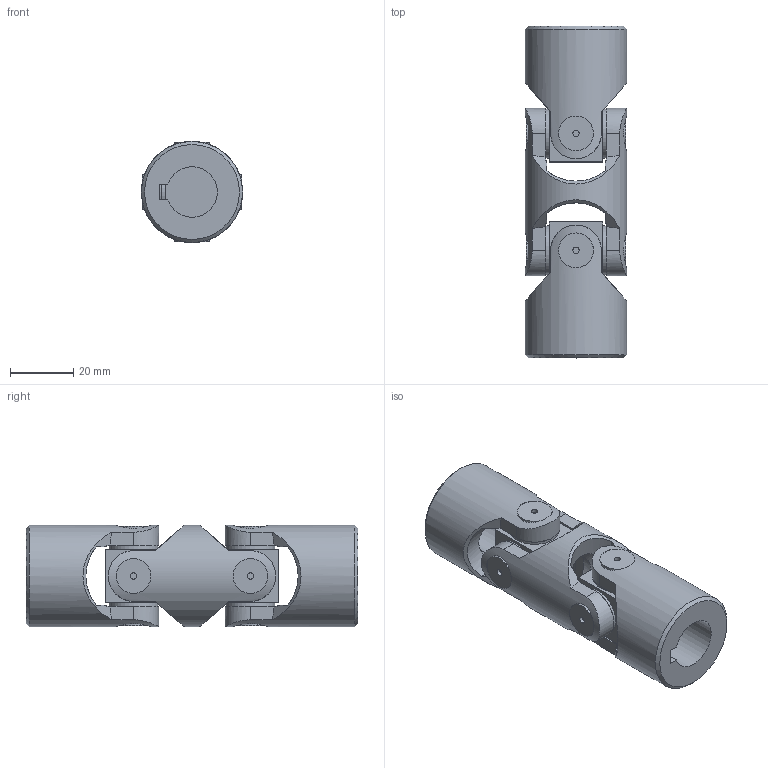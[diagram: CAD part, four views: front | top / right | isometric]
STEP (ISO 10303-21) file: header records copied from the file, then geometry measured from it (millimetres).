
FILE_DESCRIPTION(/* description */ (''),/* implementation_level */ '2;1');
FILE_NAME(/* name */ '\\SRV2016\Societa\Stefano\Disegni 3D\00Catalogo 3D\02Doppi GD-GBD\SG0D161C.stp',/* time_stamp */ '2021-11-22T17:16:29+01:00',/* author */ ('acquisti'),/* organization */ (''),/* preprocessor_version */ 'ST-DEVELOPER v15.6',/* originating_system */ 'Autodesk Inventor 2015',/* authorisation */ '');
FILE_SCHEMA (('AUTOMOTIVE_DESIGN { 1 0 10303 214 3 1 1 }'));
Length unit declared in the file: millimetre
Products named in the file (5): 1G MOD; 1G SFE; 1G MOC; 1G MOS; Ø32_1GD-00_SG0D1600
Assembly tree (5 placements, depth 2):
  Ø32_1GD-00_SG0D1600
    1G MOD
    1G SFE  x2
    1G MOC
    1G MOS
Bounding box: 32 x 105 x 32 mm (x, y, z)
Volume: 56472.2 mm3; surface area: 21766.1 mm2
Topology: 5 solids, 5 shells, 164 faces, 378 edges, 244 vertices
Faces by surface type: plane 73, cylinder 65, cone 22, torus 4
Full cylindrical faces by diameter (mm): 2 x8, 15.5 x8, 16 x1, 18 x3, 32 x3
Entity records: 4949 total; most frequent: CARTESIAN_POINT 1731, ORIENTED_EDGE 632, DIRECTION 627, EDGE_CURVE 316, AXIS2_PLACEMENT_3D 279, VERTEX_POINT 218, EDGE_LOOP 200, FACE_OUTER_BOUND 150
